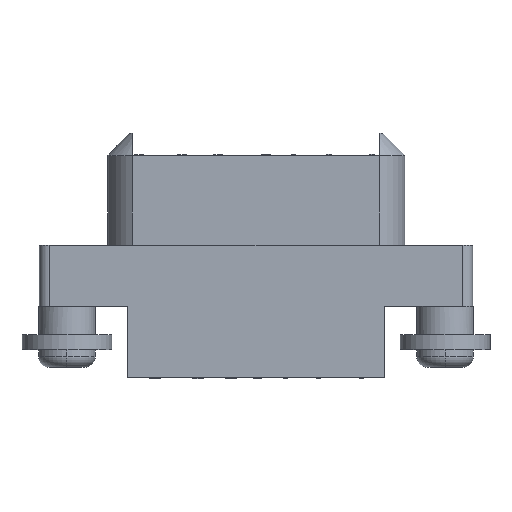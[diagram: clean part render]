
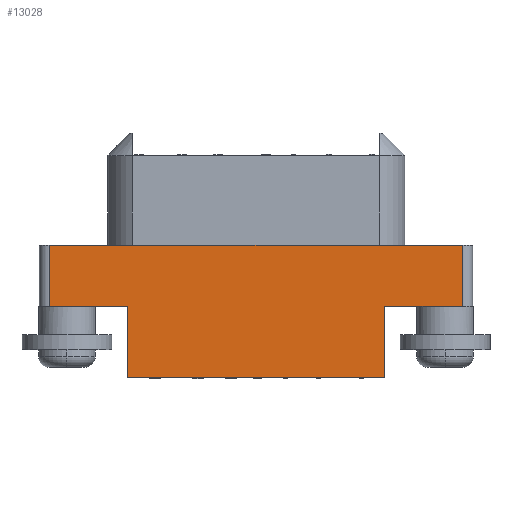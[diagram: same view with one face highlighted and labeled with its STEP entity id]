
A CAD part, front view. The second image highlights one B-rep face of the part: STEP entity #13028.
In plain terms, the highlighted planar face has unit normal (0, -1, 0).
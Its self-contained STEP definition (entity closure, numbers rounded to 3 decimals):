
#562 = LINE ( 'NONE', #25793, #14904 ) ;
#817 = LINE ( 'NONE', #1441, #22394 ) ;
#1441 = CARTESIAN_POINT ( 'NONE',  ( -21.3, -5.65, -14.8 ) ) ;
#1861 = LINE ( 'NONE', #8010, #14158 ) ;
#2218 = EDGE_CURVE ( 'NONE', #8523, #19986, #22416, .T. ) ;
#2563 = DIRECTION ( 'NONE',  ( 0., 0., -1. ) ) ;
#2662 = CARTESIAN_POINT ( 'NONE',  ( 20.3, -5.65, -8.8 ) ) ;
#2978 = VECTOR ( 'NONE', #38440, 1000. ) ;
#3162 = CARTESIAN_POINT ( 'NONE',  ( 12.65, -5.65, -21.8 ) ) ;
#3376 = VERTEX_POINT ( 'NONE', #21898 ) ;
#4044 = VERTEX_POINT ( 'NONE', #11958 ) ;
#4494 = EDGE_CURVE ( 'NONE', #8523, #18439, #11907, .T. ) ;
#5634 = LINE ( 'NONE', #3162, #14888 ) ;
#6551 = ORIENTED_EDGE ( 'NONE', *, *, #26661, .T. ) ;
#7506 = CARTESIAN_POINT ( 'NONE',  ( 20.3, -5.65, -14.8 ) ) ;
#7580 = DIRECTION ( 'NONE',  ( -1., 0., 0. ) ) ;
#7798 = DIRECTION ( 'NONE',  ( -1., 0., 0. ) ) ;
#8010 = CARTESIAN_POINT ( 'NONE',  ( -20.3, -5.65, 0. ) ) ;
#8354 = ORIENTED_EDGE ( 'NONE', *, *, #22079, .F. ) ;
#8443 = CARTESIAN_POINT ( 'NONE',  ( -20.3, -5.65, -8.8 ) ) ;
#8523 = VERTEX_POINT ( 'NONE', #7506 ) ;
#9476 = ORIENTED_EDGE ( 'NONE', *, *, #2218, .F. ) ;
#9704 = VERTEX_POINT ( 'NONE', #18278 ) ;
#10577 = CARTESIAN_POINT ( 'NONE',  ( -21.3, -5.65, -8.8 ) ) ;
#10844 = CARTESIAN_POINT ( 'NONE',  ( -12.65, -5.65, -21.8 ) ) ;
#11907 = LINE ( 'NONE', #36971, #31416 ) ;
#11958 = CARTESIAN_POINT ( 'NONE',  ( -12.65, -5.65, -21.8 ) ) ;
#12043 = EDGE_CURVE ( 'NONE', #4044, #3376, #562, .T. ) ;
#13028 = ADVANCED_FACE ( 'NONE', ( #25635 ), #28714, .F. ) ;
#13504 = DIRECTION ( 'NONE',  ( 0., 0., 1. ) ) ;
#14158 = VECTOR ( 'NONE', #29781, 1000. ) ;
#14683 = VECTOR ( 'NONE', #34819, 1000. ) ;
#14888 = VECTOR ( 'NONE', #2563, 1000. ) ;
#14904 = VECTOR ( 'NONE', #16343, 1000. ) ;
#15244 = ORIENTED_EDGE ( 'NONE', *, *, #4494, .T. ) ;
#16175 = EDGE_LOOP ( 'NONE', ( #9476, #15244, #8354, #6551, #39140, #34165, #32814, #17712 ) ) ;
#16343 = DIRECTION ( 'NONE',  ( 0., 0., 1. ) ) ;
#17712 = ORIENTED_EDGE ( 'NONE', *, *, #21496, .F. ) ;
#18278 = CARTESIAN_POINT ( 'NONE',  ( 12.65, -5.65, -21.8 ) ) ;
#18439 = VERTEX_POINT ( 'NONE', #2662 ) ;
#18955 = VERTEX_POINT ( 'NONE', #8443 ) ;
#19256 = DIRECTION ( 'NONE',  ( 0., 1., 0. ) ) ;
#19986 = VERTEX_POINT ( 'NONE', #39938 ) ;
#21496 = EDGE_CURVE ( 'NONE', #19986, #9704, #5634, .T. ) ;
#21898 = CARTESIAN_POINT ( 'NONE',  ( -12.65, -5.65, -14.8 ) ) ;
#22079 = EDGE_CURVE ( 'NONE', #18955, #18439, #38098, .T. ) ;
#22394 = VECTOR ( 'NONE', #7798, 1000. ) ;
#22416 = LINE ( 'NONE', #34957, #2978 ) ;
#23164 = CARTESIAN_POINT ( 'NONE',  ( 0., -5.65, 0. ) ) ;
#25635 = FACE_OUTER_BOUND ( 'NONE', #16175, .T. ) ;
#25793 = CARTESIAN_POINT ( 'NONE',  ( -12.65, -5.65, -14.8 ) ) ;
#26654 = LINE ( 'NONE', #10844, #26913 ) ;
#26661 = EDGE_CURVE ( 'NONE', #18955, #28489, #1861, .T. ) ;
#26913 = VECTOR ( 'NONE', #7580, 1000. ) ;
#28489 = VERTEX_POINT ( 'NONE', #33870 ) ;
#28714 = PLANE ( 'NONE',  #31319 ) ;
#29781 = DIRECTION ( 'NONE',  ( 0., 0., -1. ) ) ;
#31319 = AXIS2_PLACEMENT_3D ( 'NONE', #23164, #19256, #13504 ) ;
#31416 = VECTOR ( 'NONE', #32889, 1000. ) ;
#31930 = EDGE_CURVE ( 'NONE', #3376, #28489, #817, .T. ) ;
#32814 = ORIENTED_EDGE ( 'NONE', *, *, #35846, .F. ) ;
#32889 = DIRECTION ( 'NONE',  ( 0., 0., 1. ) ) ;
#33870 = CARTESIAN_POINT ( 'NONE',  ( -20.3, -5.65, -14.8 ) ) ;
#34165 = ORIENTED_EDGE ( 'NONE', *, *, #12043, .F. ) ;
#34819 = DIRECTION ( 'NONE',  ( 1., 0., 0. ) ) ;
#34957 = CARTESIAN_POINT ( 'NONE',  ( 12.65, -5.65, -14.8 ) ) ;
#35846 = EDGE_CURVE ( 'NONE', #9704, #4044, #26654, .T. ) ;
#36971 = CARTESIAN_POINT ( 'NONE',  ( 20.3, -5.65, 0. ) ) ;
#38098 = LINE ( 'NONE', #10577, #14683 ) ;
#38440 = DIRECTION ( 'NONE',  ( -1., 0., 0. ) ) ;
#39140 = ORIENTED_EDGE ( 'NONE', *, *, #31930, .F. ) ;
#39938 = CARTESIAN_POINT ( 'NONE',  ( 12.65, -5.65, -14.8 ) ) ;
